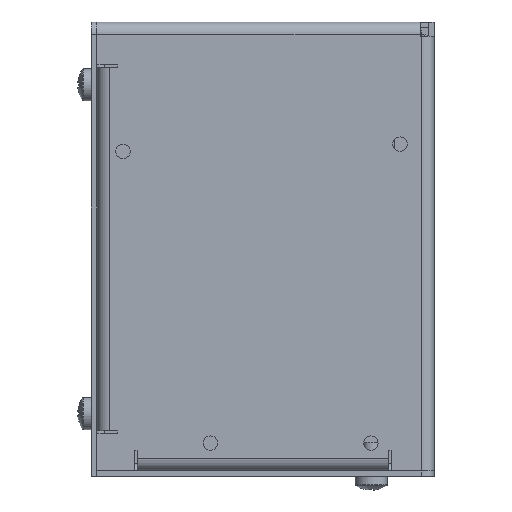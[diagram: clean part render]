
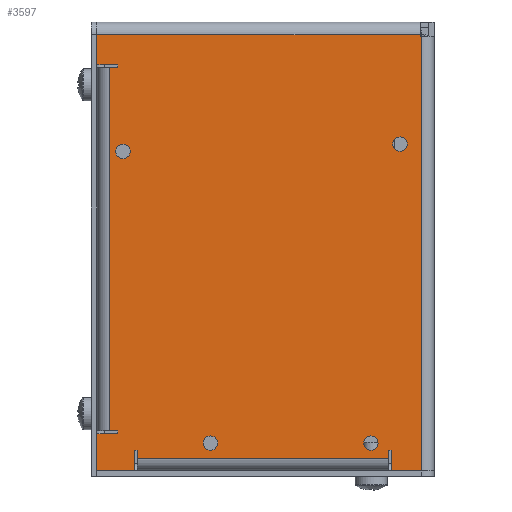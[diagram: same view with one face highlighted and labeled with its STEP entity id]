
A CAD part, front view. The second image highlights one B-rep face of the part: STEP entity #3597.
In plain terms, the highlighted planar face has unit normal (0, -1, 0).
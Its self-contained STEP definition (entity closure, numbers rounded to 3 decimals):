
#121=CIRCLE('',#3797,1.25);
#123=CIRCLE('',#3800,1.25);
#125=CIRCLE('',#3803,1.25);
#127=CIRCLE('',#3806,1.25);
#316=FACE_BOUND('',#662,.T.);
#317=FACE_BOUND('',#663,.T.);
#318=FACE_BOUND('',#664,.T.);
#319=FACE_BOUND('',#665,.T.);
#426=FACE_OUTER_BOUND('',#661,.T.);
#661=EDGE_LOOP('',(#2741,#2742,#2743,#2744,#2745,#2746,#2747,#2748,#2749,
#2750,#2751,#2752,#2753,#2754,#2755,#2756,#2757,#2758,#2759,#2760,#2761,
#2762));
#662=EDGE_LOOP('',(#2763));
#663=EDGE_LOOP('',(#2764));
#664=EDGE_LOOP('',(#2765));
#665=EDGE_LOOP('',(#2766));
#880=LINE('',#5457,#1221);
#883=LINE('',#5463,#1224);
#901=LINE('',#5549,#1242);
#904=LINE('',#5555,#1245);
#907=LINE('',#5561,#1248);
#910=LINE('',#5567,#1251);
#924=LINE('',#5603,#1265);
#927=LINE('',#5609,#1268);
#930=LINE('',#5615,#1271);
#933=LINE('',#5621,#1274);
#936=LINE('',#5627,#1277);
#939=LINE('',#5633,#1280);
#942=LINE('',#5639,#1283);
#945=LINE('',#5645,#1286);
#959=LINE('',#5681,#1300);
#962=LINE('',#5687,#1303);
#965=LINE('',#5693,#1306);
#968=LINE('',#5699,#1309);
#1008=LINE('',#5835,#1349);
#1009=LINE('',#5836,#1350);
#1010=LINE('',#5837,#1351);
#1011=LINE('',#5838,#1352);
#1221=VECTOR('',#4326,1000.);
#1224=VECTOR('',#4331,1000.);
#1242=VECTOR('',#4375,1000.);
#1245=VECTOR('',#4380,1000.);
#1248=VECTOR('',#4385,1000.);
#1251=VECTOR('',#4390,1000.);
#1265=VECTOR('',#4424,1000.);
#1268=VECTOR('',#4429,1000.);
#1271=VECTOR('',#4434,1000.);
#1274=VECTOR('',#4439,1000.);
#1277=VECTOR('',#4444,1000.);
#1280=VECTOR('',#4449,1000.);
#1283=VECTOR('',#4454,1000.);
#1286=VECTOR('',#4459,1000.);
#1300=VECTOR('',#4493,1000.);
#1303=VECTOR('',#4498,1000.);
#1306=VECTOR('',#4503,1000.);
#1309=VECTOR('',#4508,1000.);
#1349=VECTOR('',#4602,1000.);
#1350=VECTOR('',#4603,1000.);
#1351=VECTOR('',#4604,1000.);
#1352=VECTOR('',#4605,1000.);
#1521=VERTEX_POINT('',#5325);
#1523=VERTEX_POINT('',#5331);
#1525=VERTEX_POINT('',#5337);
#1527=VERTEX_POINT('',#5343);
#1563=VERTEX_POINT('',#5450);
#1565=VERTEX_POINT('',#5456);
#1567=VERTEX_POINT('',#5462);
#1576=VERTEX_POINT('',#5542);
#1578=VERTEX_POINT('',#5548);
#1580=VERTEX_POINT('',#5554);
#1582=VERTEX_POINT('',#5560);
#1584=VERTEX_POINT('',#5566);
#1594=VERTEX_POINT('',#5596);
#1596=VERTEX_POINT('',#5602);
#1598=VERTEX_POINT('',#5608);
#1600=VERTEX_POINT('',#5614);
#1602=VERTEX_POINT('',#5620);
#1604=VERTEX_POINT('',#5626);
#1606=VERTEX_POINT('',#5632);
#1608=VERTEX_POINT('',#5638);
#1610=VERTEX_POINT('',#5644);
#1620=VERTEX_POINT('',#5674);
#1622=VERTEX_POINT('',#5680);
#1624=VERTEX_POINT('',#5686);
#1626=VERTEX_POINT('',#5692);
#1628=VERTEX_POINT('',#5698);
#1841=EDGE_CURVE('',#1521,#1521,#121,.T.);
#1844=EDGE_CURVE('',#1523,#1523,#123,.T.);
#1847=EDGE_CURVE('',#1525,#1525,#125,.T.);
#1850=EDGE_CURVE('',#1527,#1527,#127,.T.);
#1900=EDGE_CURVE('',#1563,#1565,#880,.T.);
#1903=EDGE_CURVE('',#1565,#1567,#883,.T.);
#1926=EDGE_CURVE('',#1578,#1576,#901,.T.);
#1929=EDGE_CURVE('',#1578,#1580,#904,.T.);
#1932=EDGE_CURVE('',#1580,#1582,#907,.T.);
#1935=EDGE_CURVE('',#1582,#1584,#910,.T.);
#1953=EDGE_CURVE('',#1594,#1596,#924,.T.);
#1956=EDGE_CURVE('',#1596,#1598,#927,.T.);
#1959=EDGE_CURVE('',#1598,#1600,#930,.T.);
#1962=EDGE_CURVE('',#1602,#1600,#933,.T.);
#1965=EDGE_CURVE('',#1604,#1602,#936,.T.);
#1968=EDGE_CURVE('',#1604,#1606,#939,.T.);
#1971=EDGE_CURVE('',#1606,#1608,#942,.T.);
#1974=EDGE_CURVE('',#1608,#1610,#945,.T.);
#1992=EDGE_CURVE('',#1620,#1622,#959,.T.);
#1995=EDGE_CURVE('',#1622,#1624,#962,.T.);
#1998=EDGE_CURVE('',#1624,#1626,#965,.T.);
#2001=EDGE_CURVE('',#1628,#1626,#968,.T.);
#2047=EDGE_CURVE('',#1610,#1620,#1008,.T.);
#2048=EDGE_CURVE('',#1584,#1594,#1009,.T.);
#2049=EDGE_CURVE('',#1567,#1576,#1010,.T.);
#2050=EDGE_CURVE('',#1628,#1563,#1011,.T.);
#2741=ORIENTED_EDGE('',*,*,#2001,.T.);
#2742=ORIENTED_EDGE('',*,*,#1998,.F.);
#2743=ORIENTED_EDGE('',*,*,#1995,.F.);
#2744=ORIENTED_EDGE('',*,*,#1992,.F.);
#2745=ORIENTED_EDGE('',*,*,#2047,.F.);
#2746=ORIENTED_EDGE('',*,*,#1974,.F.);
#2747=ORIENTED_EDGE('',*,*,#1971,.F.);
#2748=ORIENTED_EDGE('',*,*,#1968,.F.);
#2749=ORIENTED_EDGE('',*,*,#1965,.T.);
#2750=ORIENTED_EDGE('',*,*,#1962,.T.);
#2751=ORIENTED_EDGE('',*,*,#1959,.F.);
#2752=ORIENTED_EDGE('',*,*,#1956,.F.);
#2753=ORIENTED_EDGE('',*,*,#1953,.F.);
#2754=ORIENTED_EDGE('',*,*,#2048,.F.);
#2755=ORIENTED_EDGE('',*,*,#1935,.F.);
#2756=ORIENTED_EDGE('',*,*,#1932,.F.);
#2757=ORIENTED_EDGE('',*,*,#1929,.F.);
#2758=ORIENTED_EDGE('',*,*,#1926,.T.);
#2759=ORIENTED_EDGE('',*,*,#2049,.F.);
#2760=ORIENTED_EDGE('',*,*,#1903,.F.);
#2761=ORIENTED_EDGE('',*,*,#1900,.F.);
#2762=ORIENTED_EDGE('',*,*,#2050,.F.);
#2763=ORIENTED_EDGE('',*,*,#1841,.T.);
#2764=ORIENTED_EDGE('',*,*,#1844,.T.);
#2765=ORIENTED_EDGE('',*,*,#1847,.T.);
#2766=ORIENTED_EDGE('',*,*,#1850,.T.);
#3428=PLANE('',#3900);
#3597=ADVANCED_FACE('',(#426,#316,#317,#318,#319),#3428,.T.);
#3797=AXIS2_PLACEMENT_3D('',#5326,#4219,#4220);
#3800=AXIS2_PLACEMENT_3D('',#5332,#4226,#4227);
#3803=AXIS2_PLACEMENT_3D('',#5338,#4233,#4234);
#3806=AXIS2_PLACEMENT_3D('',#5344,#4240,#4241);
#3900=AXIS2_PLACEMENT_3D('',#5834,#4600,#4601);
#4219=DIRECTION('center_axis',(0.,1.,0.));
#4220=DIRECTION('ref_axis',(0.,0.,1.));
#4226=DIRECTION('center_axis',(0.,1.,0.));
#4227=DIRECTION('ref_axis',(0.,0.,1.));
#4233=DIRECTION('center_axis',(0.,1.,0.));
#4234=DIRECTION('ref_axis',(0.,0.,1.));
#4240=DIRECTION('center_axis',(0.,1.,0.));
#4241=DIRECTION('ref_axis',(0.,0.,1.));
#4326=DIRECTION('',(0.,0.,-1.));
#4331=DIRECTION('',(1.,0.,0.));
#4375=DIRECTION('',(1.,0.,0.));
#4380=DIRECTION('',(0.,0.,1.));
#4385=DIRECTION('',(-1.,0.,0.));
#4390=DIRECTION('',(0.,0.,-1.));
#4424=DIRECTION('',(0.,0.,1.));
#4429=DIRECTION('',(-1.,0.,0.));
#4434=DIRECTION('',(0.,0.,-1.));
#4439=DIRECTION('',(1.,0.,0.));
#4444=DIRECTION('',(0.,0.,-1.));
#4449=DIRECTION('',(1.,0.,0.));
#4454=DIRECTION('',(0.,0.,1.));
#4459=DIRECTION('',(-1.,0.,0.));
#4493=DIRECTION('',(1.,0.,0.));
#4498=DIRECTION('',(0.,0.,1.));
#4503=DIRECTION('',(-1.,0.,0.));
#4508=DIRECTION('',(0.,0.,-1.));
#4600=DIRECTION('center_axis',(0.,-1.,0.));
#4601=DIRECTION('ref_axis',(1.,0.,0.));
#4602=DIRECTION('',(0.,0.,1.));
#4603=DIRECTION('',(-1.,0.,0.));
#4604=DIRECTION('',(0.,0.,-1.));
#4605=DIRECTION('',(1.,0.,0.));
#5325=CARTESIAN_POINT('',(-35.56,-10.81,-73.64));
#5326=CARTESIAN_POINT('Origin',(-35.56,-10.81,-72.39));
#5331=CARTESIAN_POINT('',(-7.62,-10.81,-73.64));
#5332=CARTESIAN_POINT('Origin',(-7.62,-10.81,-72.39));
#5337=CARTESIAN_POINT('',(-50.8,-10.81,-22.84));
#5338=CARTESIAN_POINT('Origin',(-50.8,-10.81,-21.59));
#5343=CARTESIAN_POINT('',(-2.54,-10.81,-21.57));
#5344=CARTESIAN_POINT('Origin',(-2.54,-10.81,-20.32));
#5450=CARTESIAN_POINT('',(0.955,-10.81,-1.25));
#5456=CARTESIAN_POINT('',(0.955,-10.81,-1.49));
#5457=CARTESIAN_POINT('',(0.955,-10.81,0.));
#5462=CARTESIAN_POINT('',(1.195,-10.81,-1.49));
#5463=CARTESIAN_POINT('',(0.,-10.81,-1.49));
#5542=CARTESIAN_POINT('',(1.195,-10.81,-77.248));
#5548=CARTESIAN_POINT('',(-4.075,-10.81,-77.248));
#5549=CARTESIAN_POINT('',(0.,-10.81,-77.248));
#5554=CARTESIAN_POINT('',(-4.075,-10.81,-73.598));
#5555=CARTESIAN_POINT('',(-4.075,-10.81,0.));
#5560=CARTESIAN_POINT('',(-4.555,-10.81,-73.598));
#5561=CARTESIAN_POINT('',(0.,-10.81,-73.598));
#5566=CARTESIAN_POINT('',(-4.555,-10.81,-75.038));
#5567=CARTESIAN_POINT('',(-4.555,-10.81,0.));
#5596=CARTESIAN_POINT('',(-48.34,-10.81,-75.038));
#5602=CARTESIAN_POINT('',(-48.34,-10.81,-73.598));
#5603=CARTESIAN_POINT('',(-48.34,-10.81,0.));
#5608=CARTESIAN_POINT('',(-48.82,-10.81,-73.598));
#5609=CARTESIAN_POINT('',(0.,-10.81,-73.598));
#5614=CARTESIAN_POINT('',(-48.82,-10.81,-77.248));
#5615=CARTESIAN_POINT('',(-48.82,-10.81,0.));
#5620=CARTESIAN_POINT('',(-55.34,-10.81,-77.248));
#5621=CARTESIAN_POINT('',(0.,-10.81,-77.248));
#5626=CARTESIAN_POINT('',(-55.34,-10.81,-70.728));
#5627=CARTESIAN_POINT('',(-55.34,-10.81,0.));
#5632=CARTESIAN_POINT('',(-51.69,-10.81,-70.728));
#5633=CARTESIAN_POINT('',(0.,-10.81,-70.728));
#5638=CARTESIAN_POINT('',(-51.69,-10.81,-70.248));
#5639=CARTESIAN_POINT('',(-51.69,-10.81,0.));
#5644=CARTESIAN_POINT('',(-53.13,-10.81,-70.248));
#5645=CARTESIAN_POINT('',(0.,-10.81,-70.248));
#5674=CARTESIAN_POINT('',(-53.13,-10.81,-7.));
#5680=CARTESIAN_POINT('',(-51.69,-10.81,-7.));
#5681=CARTESIAN_POINT('',(0.,-10.81,-7.));
#5686=CARTESIAN_POINT('',(-51.69,-10.81,-6.52));
#5687=CARTESIAN_POINT('',(-51.69,-10.81,0.));
#5692=CARTESIAN_POINT('',(-55.34,-10.81,-6.52));
#5693=CARTESIAN_POINT('',(0.,-10.81,-6.52));
#5698=CARTESIAN_POINT('',(-55.34,-10.81,-1.25));
#5699=CARTESIAN_POINT('',(-55.34,-10.81,0.));
#5834=CARTESIAN_POINT('Origin',(0.,-10.81,0.));
#5835=CARTESIAN_POINT('',(-53.13,-10.81,0.));
#5836=CARTESIAN_POINT('',(0.,-10.81,-75.038));
#5837=CARTESIAN_POINT('',(1.195,-10.81,0.));
#5838=CARTESIAN_POINT('',(0.,-10.81,-1.25));
